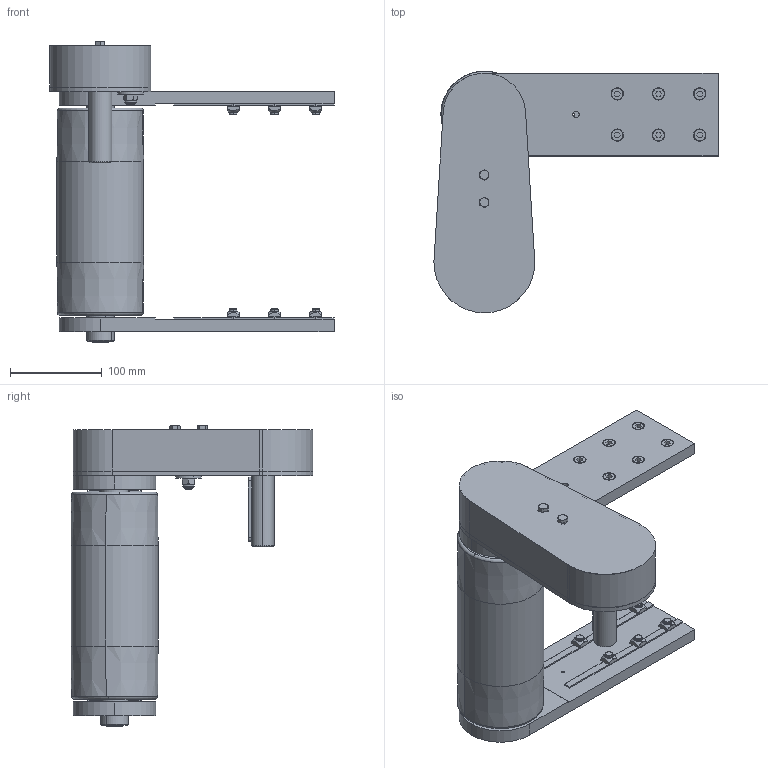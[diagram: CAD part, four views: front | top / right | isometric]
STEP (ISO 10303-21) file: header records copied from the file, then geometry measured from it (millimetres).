
FILE_DESCRIPTION (( 'STEP AP203' ), '1' );
FILE_NAME ('084.095.KTB.49.200.step', '2013-02-28T12:03:04', ( '' ), ( '' ), 'SwSTEP 2.0', 'SolidWorks 2011', '' );
FILE_SCHEMA (( 'CONFIG_CONTROL_DESIGN' ));
Length unit declared in the file: millimetre
Products named in the file (28): 084.095.KTB.49.200; Hex Screw GradeC_ALUSIC_ISO 4018 - M8 x 20-NS; Hex Screw GradeC_ALUSIC_ISO 4018 - M6 x 50-NS; ANELLI ELASTICI PER ESTERNI UNI 7435-75_Circlip DIN 471 - 30 x 1.5; CHIAVETTE_A 8x7x25 UNI 6604-69; CHIAVETTE_A 8x7x70 UNI 6604-69; Specchiatura084.302.000 DADI ALUSIC 13x13_084.302.004; 084.301.000 VITI ALUSIC_084.301.003; 084.302.000 DADI ALUSIC 13x13_084.302.004; 084.821.003; 084.810.006; Circlip for Shafts normal_din_Circlip DIN 471 - 8 x 0.8; Plain Washer XLarge Grade C_ALUSIC_Washer ISO 7094 - 8; Torque nut 01_ALUSIC_ISO 7040-M8-S; CUSCINETTI A SFERE_608-2RS; 084.810.008; 084.816.101_084.816.107<A macchina>; 084.813.005; 084.809.002; 084.821.002; 084.809.003; 084.813.002; 084.812.003; 084.802.019_084.802.019; 084.802.034_084.802.034; 084.808.002_084.808.002; 084.810.003; 084.808.003_084.808.003
Assembly tree (59 placements, depth 3):
  084.095.KTB.49.200
    CHIAVETTE_A 8x7x25 UNI 6604-69  x3
    CHIAVETTE_A 8x7x70 UNI 6604-69
    084.301.000 VITI ALUSIC_084.301.003  x12
    ANELLI ELASTICI PER ESTERNI UNI 7435-75_Circlip DIN 471 - 30 x 1.5  x2
    084.302.000 DADI ALUSIC 13x13_084.302.004  x6
    084.813.005
    084.812.003
    Hex Screw GradeC_ALUSIC_ISO 4018 - M8 x 20-NS  x4
    Specchiatura084.302.000 DADI ALUSIC 13x13_084.302.004  x6
    084.813.002
    084.816.101_084.816.107<A macchina>
    084.802.034_084.802.034
    084.810.003  x2
    Hex Screw GradeC_ALUSIC_ISO 4018 - M6 x 50-NS  x2
    084.809.003
    084.808.002_084.808.002
    084.821.002  x2
    084.809.002
    084.808.003_084.808.003
    084.821.003
    084.810.006
      Circlip for Shafts normal_din_Circlip DIN 471 - 8 x 0.8
      CUSCINETTI A SFERE_608-2RS  x3
      Plain Washer XLarge Grade C_ALUSIC_Washer ISO 7094 - 8
      084.810.008
      Torque nut 01_ALUSIC_ISO 7040-M8-S
    084.802.019_084.802.019
Bounding box: 310 x 263.99 x 327.88 mm (x, y, z)
Volume: 1708215.1 mm3; surface area: 704380.9 mm2
Topology: 63 solids, 64 shells, 2827 faces, 7309 edges, 4678 vertices
Faces by surface type: cylinder 1022, plane 857, cone 817, torus 122, sphere 9
Entity records: 54510 total; most frequent: CARTESIAN_POINT 9764, DIRECTION 9204, ORIENTED_EDGE 8304, EDGE_CURVE 4152, AXIS2_PLACEMENT_3D 3521, VERTEX_POINT 2673, LINE 2162, VECTOR 2162
